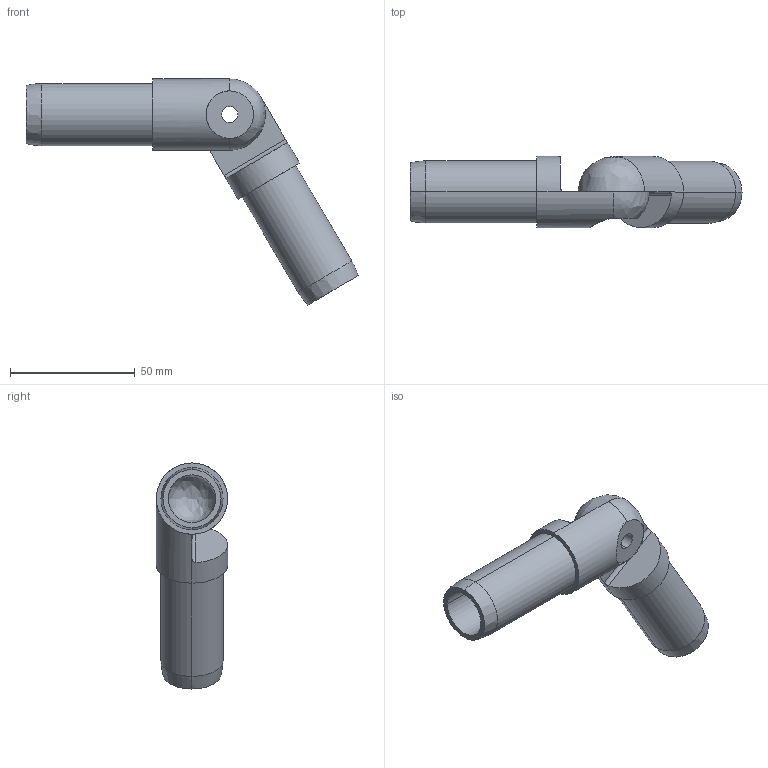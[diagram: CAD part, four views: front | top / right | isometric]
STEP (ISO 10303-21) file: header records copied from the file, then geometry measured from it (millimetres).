
FILE_DESCRIPTION (( 'STEP AP203' ), '1' );
FILE_NAME ('FDPCK-MC1-15LAJ2.step', '2019-09-11T18:40:07', ( 'ydmin' ), ( '' ), 'SwSTEP 2.0', 'SolidWorks 2017', '' );
FILE_SCHEMA (( 'CONFIG_CONTROL_DESIGN' ));
Length unit declared in the file: inch
Products named in the file (1): FDPCK-MC1-15LAJ2
Bounding box: 133.1 x 28.57 x 90.62 mm (x, y, z)
Volume: 52307.7 mm3; surface area: 22694.1 mm2
Topology: 2 solids, 2 shells, 49 faces, 110 edges, 64 vertices
Faces by surface type: cylinder 28, plane 13, bspline 8
Entity records: 1613 total; most frequent: CARTESIAN_POINT 466, DIRECTION 242, ORIENTED_EDGE 204, AXIS2_PLACEMENT_3D 104, EDGE_CURVE 102, VERTEX_POINT 64, CIRCLE 62, EDGE_LOOP 60
